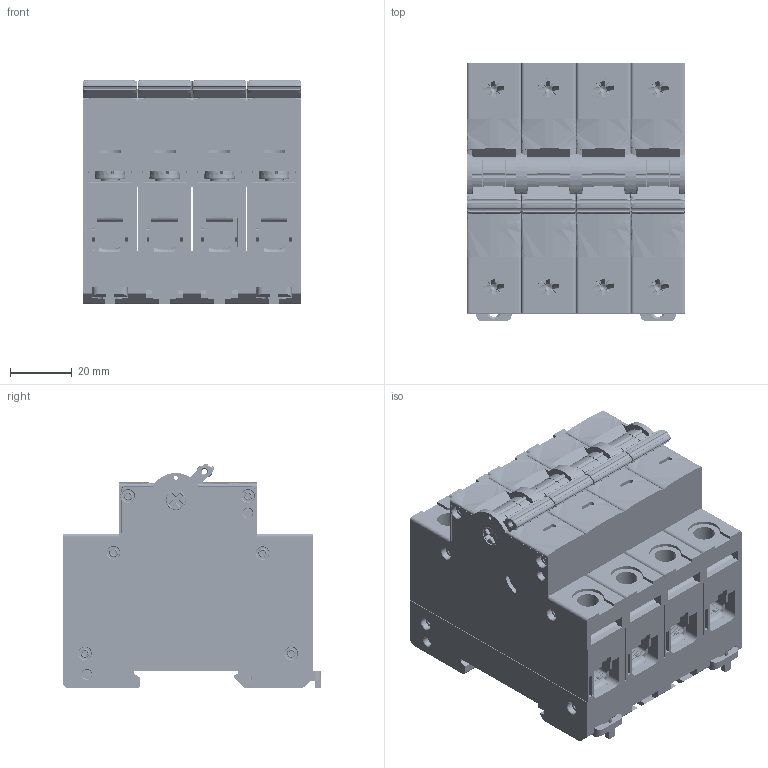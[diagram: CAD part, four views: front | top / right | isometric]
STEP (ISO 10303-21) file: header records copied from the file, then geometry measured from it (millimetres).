
FILE_DESCRIPTION (( 'STEP AP214' ), '1' );
FILE_NAME ('4P.STEP', '2026-07-03T12:21:36', ( '' ), ( '' ), 'SwSTEP 2.0', 'SolidWorks 2022', '' );
FILE_SCHEMA (( 'AUTOMOTIVE_DESIGN' ));
Length unit declared in the file: millimetre
Products named in the file (3): swn 1p; 4P; swn 1p без
Assembly tree (4 placements, depth 2):
  4P
    swn 1p  x2
    swn 1p без  x2
Bounding box: 71.2 x 84 x 72.9 mm (x, y, z)
Volume: 296699.6 mm3; surface area: 140966.1 mm2
Topology: 4 solids, 178 shells, 11932 faces, 32782 edges, 21516 vertices
Faces by surface type: plane 7342, bspline 2216, cylinder 1662, torus 384, cone 264, sphere 64
Entity records: 296550 total; most frequent: CARTESIAN_POINT 88750, ORIENTED_EDGE 32702, DIRECTION 25566, EDGE_CURVE 16351, VECTOR 11022, LINE 11022, VERTEX_POINT 10742, AXIS2_PLACEMENT_3D 7272
